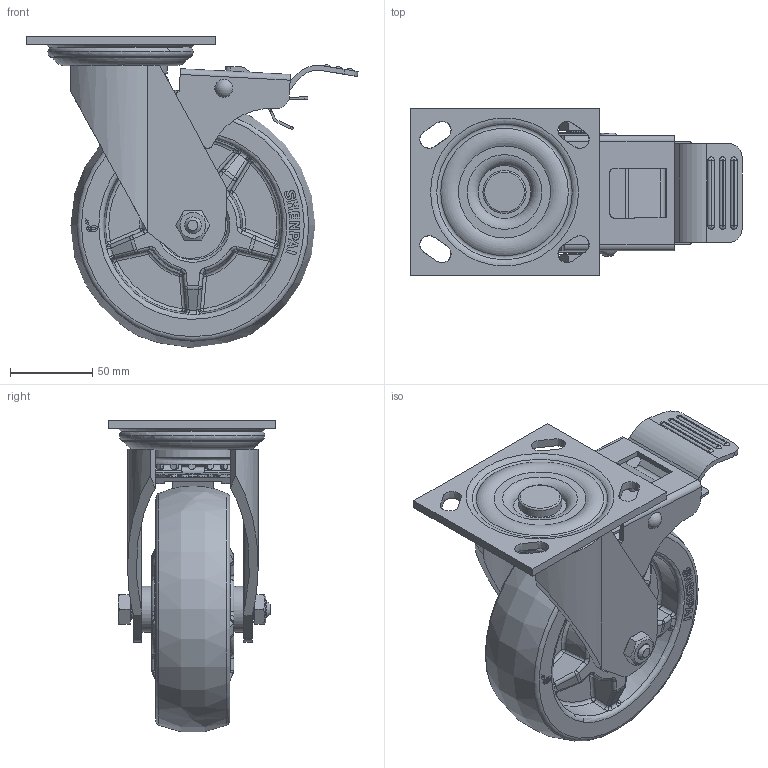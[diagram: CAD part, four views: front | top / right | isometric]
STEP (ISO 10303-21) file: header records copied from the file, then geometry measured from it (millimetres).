
FILE_DESCRIPTION(/* description */ (''),/* implementation_level */ '2;1');
FILE_NAME(/* name */ '35C22_6_F.stp',/* time_stamp */ '2022-10-17T13:04:33+08:00',/* author */ (''),/* organization */ (''),/* preprocessor_version */ 'ST-DEVELOPER v14',/* originating_system */ 'SIEMENS PLM Software NX 8.0',/* authorisation */ '');
FILE_SCHEMA (('AUTOMOTIVE_DESIGN { 1 0 10303 214 3 1 1 1 }'));
Products named in the file (1): 35C22_6_F
Bounding box: 201.98 x 102 x 189.48 mm (x, y, z)
Volume: 815674.9 mm3; surface area: 213252.7 mm2
Topology: 1 solids, 1 shells, 1528 faces, 4146 edges, 2607 vertices
Faces by surface type: plane 730, cylinder 421, bspline 138, torus 94, sphere 66, cone 45, extrusion 34
Full cylindrical faces by diameter (mm): 2.699 x1, 3.268 x1, 4 x1, 6 x1, 6.2 x2, 10.104 x2, 12 x1, 12.3 x2, 16.2 x1, 16.3 x1, 17 x2, 20.5 x2, 22.276 x1, 24.188 x4, 26.256 x1, 28 x2, 30.5 x1, 32.812 x2, 40 x5, 42 x2, 57 x1, 85 x1
Entity records: 52866 total; most frequent: CARTESIAN_POINT 16495, ORIENTED_EDGE 7778, DIRECTION 7289, EDGE_CURVE 3889, AXIS2_PLACEMENT_3D 2819, VERTEX_POINT 2517, EDGE_LOOP 1797, VECTOR 1651
